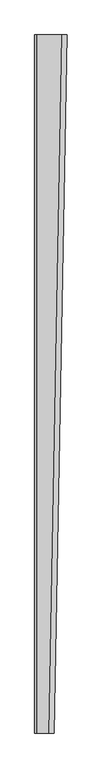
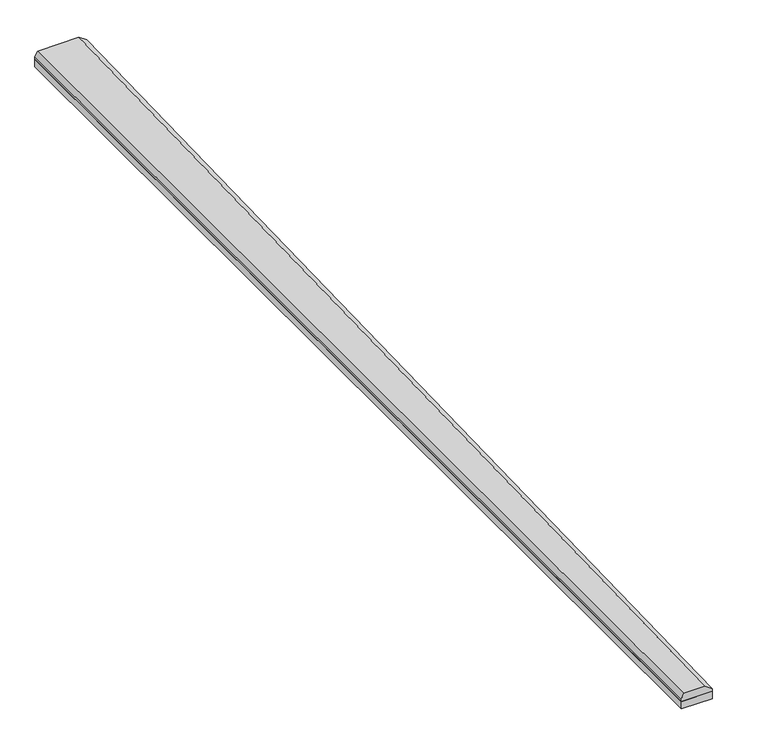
"""IFC4 building model written with IfcOpenShell, lengths in millimetres: proxy geometry, Spinneybeck_ARO Plank 3 : A - Top 5” x Bottom 3”."""

import ifcopenshell
import ifcopenshell.guid

model = None  # the IFC model being written
_history = None  # IfcOwnerHistory: only IFC2X3 demands one
_inside = {}  # id of a spatial element -> (the spatial element, [elements in it])
_under = {}  # id of a project, library or spatial element -> (it, [spatial elements below it])
_declared = {}  # id of a project -> (the project, [libraries it declares])
_typed = {}  # id of a type object -> (the type object, [elements of that type])
_made_of = {}  # id of a material, layer set ... -> (it, [elements and type objects made of it])


def new_model(schema):
    """Start an empty IFC model of exactly this schema.

    Asked for "IFC4X3", IfcOpenShell would pick the latest addendum, in which some entities
    have other attributes; the version numbers below select the first issue.
    IFC2X3 requires an IfcOwnerHistory on every rooted entity: one is made here for all.
    """
    global model, _history
    if schema == "IFC4X3":
        model = ifcopenshell.file(schema_version=(4, 3, 0, 0))
    else:
        model = ifcopenshell.file(schema=schema)
    _inside.clear()
    _under.clear()
    _declared.clear()
    _typed.clear()
    _made_of.clear()
    _history = None
    if model.schema == "IFC2X3":
        org = make("IfcOrganization", Name="unknown")
        user = make(
            "IfcPersonAndOrganization",
            ThePerson=make("IfcPerson", FamilyName="unknown"),
            TheOrganization=org,
        )
        app = make(
            "IfcApplication",
            ApplicationDeveloper=org,
            Version="unknown",
            ApplicationFullName="unknown",
            ApplicationIdentifier="unknown",
        )
        _history = make(
            "IfcOwnerHistory",
            OwningUser=user,
            OwningApplication=app,
            ChangeAction="ADDED",
            CreationDate=0,
        )
    return model


def make(cls, **values):
    """One entity of the class cls with the attributes given. An attribute that is None is left unset."""
    return model.create_entity(
        cls, **{name: value for name, value in values.items() if value is not None}
    )


def rooted(cls, **values):
    """An entity with a GlobalId (a new one), such as an element, a storey or a relation."""
    return make(cls, GlobalId=ifcopenshell.guid.new(), OwnerHistory=_history, **values)


def si_unit(unit_type, name, prefix=None):
    """IfcSIUnit, for example si_unit("LENGTHUNIT", "METRE", prefix="MILLI")."""
    return make("IfcSIUnit", UnitType=unit_type, Prefix=prefix, Name=name)


def assignment(units):
    """IfcUnitAssignment: the units of a project."""
    return None if units is None else make("IfcUnitAssignment", Units=units)


def point(xyz):
    """IfcCartesianPoint."""
    return None if xyz is None else make("IfcCartesianPoint", Coordinates=xyz)


def direction(xyz):
    """IfcDirection."""
    return None if xyz is None else make("IfcDirection", DirectionRatios=xyz)


def frame(location, z_axis=None, x_axis=None):
    """IfcAxis2Placement3D, a coordinate frame: its origin and axes. An axis left out is left unset."""
    return make(
        "IfcAxis2Placement3D",
        Location=point(location),
        Axis=direction(z_axis),
        RefDirection=direction(x_axis),
    )


def origin():
    """The frame at (0, 0, 0) with its axes left unset."""
    return frame((0.0, 0.0, 0.0))


def origin_with_axes():
    """The frame at (0, 0, 0) with the z axis (0, 0, 1) and the x axis (1, 0, 0) written out."""
    return frame((0.0, 0.0, 0.0), z_axis=(0.0, 0.0, 1.0), x_axis=(1.0, 0.0, 0.0))


def place(relative_to, where):
    """IfcLocalPlacement: puts the frame where relative to a parent placement (None: the world)."""
    return make(
        "IfcLocalPlacement", PlacementRelTo=relative_to, RelativePlacement=where
    )


def context(
    kind, dimensions, precision=None, world=None, true_north=None, identifier=None
):
    """IfcGeometricRepresentationContext, for example the 3D "Model" context."""
    return make(
        "IfcGeometricRepresentationContext",
        ContextIdentifier=identifier,
        ContextType=kind,
        CoordinateSpaceDimension=dimensions,
        Precision=precision,
        WorldCoordinateSystem=world,
        TrueNorth=true_north,
    )


def project(units=None, contexts=None):
    """IfcProject with its units and contexts."""
    return rooted(
        "IfcProject",
        Name="project",
        RepresentationContexts=contexts,
        UnitsInContext=assignment(units),
    )


def spatial(cls, under=None, at=None, **own):
    """A site, building, storey or space (cls), placed at a placement, below another one or the project."""
    s = rooted(cls, ObjectPlacement=at, **own)
    if under is not None:
        _under.setdefault(under.id(), (under, []))[1].append(s)
    return s


def polyline(points):
    """IfcPolyline through the points."""
    return make("IfcPolyline", Points=[point(p) for p in points])


def outline(outer, holes=None, kind="AREA"):
    """IfcArbitraryClosedProfileDef: a profile drawn as a closed curve; with holes, ...WithVoids."""
    if holes is None:
        return make("IfcArbitraryClosedProfileDef", ProfileType=kind, OuterCurve=outer)
    return make(
        "IfcArbitraryProfileDefWithVoids",
        ProfileType=kind,
        OuterCurve=outer,
        InnerCurves=holes,
    )


def extrude(swept, where, along, depth):
    """IfcExtrudedAreaSolid: the profile swept, set in the frame where, extruded along a direction by depth."""
    return make(
        "IfcExtrudedAreaSolid",
        SweptArea=swept,
        Position=where,
        ExtrudedDirection=direction(along),
        Depth=depth,
    )


def faces_of(points, faces, orient=None, outer=None):
    """IfcFace entities. A face is a list of loops; a loop is a list of indices into points, from 0.

    orient and outer hold one flag for each loop. By default every Orientation is true, the
    first loop of a face is its IfcFaceOuterBound and the others are IfcFaceBound.
    """
    made = []
    for i, loops in enumerate(faces):
        bounds = []
        for j, loop in enumerate(loops):
            is_outer = j == 0 if outer is None else outer[i][j]
            bounds.append(
                make(
                    "IfcFaceOuterBound" if is_outer else "IfcFaceBound",
                    Bound=make("IfcPolyLoop", Polygon=[points[k] for k in loop]),
                    Orientation=True if orient is None else orient[i][j],
                )
            )
        made.append(make("IfcFace", Bounds=bounds))
    return made


def faceted_brep(points, faces, orient=None, outer=None, voids=None):
    """IfcFacetedBrep: a solid bounded by flat faces; with voids (closed shells), ...WithVoids."""
    shared = [point(p) for p in points]
    hull = make("IfcClosedShell", CfsFaces=faces_of(shared, faces, orient, outer))
    if voids is None:
        return make("IfcFacetedBrep", Outer=hull)
    return make(
        "IfcFacetedBrepWithVoids",
        Outer=hull,
        Voids=[
            make(cls, CfsFaces=faces_of(shared, fs, o, b)) for cls, fs, o, b in voids
        ],
    )


def shape(context_of_items, identifier, shape_type, items):
    """IfcShapeRepresentation: the items that make up one representation, for example the "Body"."""
    return make(
        "IfcShapeRepresentation",
        ContextOfItems=context_of_items,
        RepresentationIdentifier=identifier,
        RepresentationType=shape_type,
        Items=items,
    )


def source(mapping_origin, context_of_items, identifier, shape_type, items):
    """IfcRepresentationMap: a shape defined once, which mapped items show again and again."""
    return make(
        "IfcRepresentationMap",
        MappingOrigin=mapping_origin,
        MappedRepresentation=shape(context_of_items, identifier, shape_type, items),
    )


def transform(
    local_origin,
    x_axis=None,
    y_axis=None,
    z_axis=None,
    scale=None,
    scale2=None,
    scale3=None,
    uniform=True,
):
    """IfcCartesianTransformationOperator3D, or its non-uniform kind. x_axis, y_axis, z_axis: its Axis1, 2, 3."""
    if uniform:
        return make(
            "IfcCartesianTransformationOperator3D",
            Axis1=direction(x_axis),
            Axis2=direction(y_axis),
            LocalOrigin=point(local_origin),
            Scale=scale,
            Axis3=direction(z_axis),
        )
    return make(
        "IfcCartesianTransformationOperator3DnonUniform",
        Axis1=direction(x_axis),
        Axis2=direction(y_axis),
        LocalOrigin=point(local_origin),
        Scale=scale,
        Axis3=direction(z_axis),
        Scale2=scale2,
        Scale3=scale3,
    )


def mapped(mapping_source, mapping_target):
    """IfcMappedItem: shows the shape of a source again, moved by a transform."""
    return make(
        "IfcMappedItem", MappingSource=mapping_source, MappingTarget=mapping_target
    )


def made_of(thing, what):
    """Note that an element or type object is made of a material, layer set ...; save() writes the relation."""
    if what is not None:
        _made_of.setdefault(what.id(), (what, []))[1].append(thing)
    return thing


def element(
    cls,
    number,
    at=None,
    inside=None,
    cuts=None,
    type_object=None,
    material=None,
    context=None,
    identifier="Body",
    shape_type=None,
    held_by="IfcProductDefinitionShape",
    body=None,
    shapes=None,
    **own,
):
    """One element of the class cls, such as IfcWall. Its Tag is "e" and its number.

    at: its placement. inside: the storey or other place that contains it. cuts: it is an
    opening in that element (IfcRelVoidsElement). A single representation is given by context,
    identifier, shape_type and body (its items); several are given by shapes. held_by: the class
    of the entity that holds the representations. save() writes the other relations.
    """
    e = rooted(cls, Tag="e%d" % number, ObjectPlacement=at, **own)
    if body is not None:
        shapes = [shape(context, identifier, shape_type, body)]
    if shapes is not None:
        e.Representation = make(held_by, Representations=shapes)
    if inside is not None:
        _inside.setdefault(inside.id(), (inside, []))[1].append(e)
    if cuts is not None:
        rooted(
            "IfcRelVoidsElement", RelatingBuildingElement=cuts, RelatedOpeningElement=e
        )
    if type_object is not None:
        _typed.setdefault(type_object.id(), (type_object, []))[1].append(e)
    return made_of(e, material)


def aggregate(whole, parts):
    """IfcRelAggregates: a whole, such as a stair, and the parts it consists of."""
    return rooted("IfcRelAggregates", RelatingObject=whole, RelatedObjects=parts)


def save(model, path):
    """Write the relations noted so far, then the file.

    IfcRelAggregates (storeys below a building ...), IfcRelContainedInSpatialStructure (elements
    in a storey), IfcRelDefinesByType, IfcRelAssociatesMaterial and IfcRelDeclares: one each for
    every whole, place, type object, material and project.
    """
    for whole, parts in _under.values():
        aggregate(whole, parts)
    for where, things in _inside.values():
        rooted(
            "IfcRelContainedInSpatialStructure",
            RelatedElements=things,
            RelatingStructure=where,
        )
    for kind, things in _typed.values():
        rooted("IfcRelDefinesByType", RelatedObjects=things, RelatingType=kind)
    for what, things in _made_of.values():
        rooted("IfcRelAssociatesMaterial", RelatedObjects=things, RelatingMaterial=what)
    for by, libraries in _declared.values():
        rooted("IfcRelDeclares", RelatingContext=by, RelatedDefinitions=libraries)
    model.write(path)


def specialty_equipment_cf8c985c(model_context):
    return source(origin(), model_context, "Body", "SolidModel", [
        extrude(outline(polyline([(-63.5, 2743.2), (63.5, 2743.2), (12.7, 0.0), (-63.5, 0.0), (-63.5, 2743.2)])), origin_with_axes(), (0.0, 0.0, 1.0), 19.05),
        faceted_brep([(-57.15, 0.0, 38.1), (-63.5, 0.0, 25.4), (-63.5, 0.0, 19.05), (12.7, 0.0, 19.05), (12.7, 0.0, 25.4), (-6.35, 0.0, 38.1), (-57.15, 2743.2, 38.1), (44.45, 2743.2, 38.1), (63.5, 2743.2, 25.4), (63.5, 2743.2, 19.05), (-63.5, 2743.2, 19.05), (-63.5, 2743.2, 25.4)], [[[0, 1, 2, 3, 4, 5]], [[6, 7, 8, 9, 10, 11]], [[6, 11, 1, 0]], [[11, 10, 2, 1]], [[10, 9, 3, 2]], [[9, 8, 4, 3]], [[8, 7, 5, 4]], [[7, 6, 0, 5]]]),
    ])


if __name__ == "__main__":
    model = new_model("IFC4")
    model_context = context("Model", 3, world=origin())
    ifc_project = project(units=[si_unit("LENGTHUNIT", "METRE", prefix="MILLI")], contexts=[model_context])
    site = spatial("IfcSite", under=ifc_project)
    building = spatial("IfcBuilding", under=site)
    placement = place(None, origin())
    specialty_equipment_shape = specialty_equipment_cf8c985c(model_context)
    element("IfcBuildingElementProxy", 1, Name="Spinneybeck_ARO Plank 3 : A - Top 5” x Bottom 3”", ObjectType="Spinneybeck_ARO Plank 3 : A - Top 5” x Bottom 3”", at=placement, inside=building, context=model_context, shape_type="MappedRepresentation", body=[
        mapped(specialty_equipment_shape, transform((0.0, 0.0, 0.0), x_axis=(1.0, 0.0, 0.0), y_axis=(0.0, 1.0, 0.0), z_axis=(0.0, 0.0, 1.0))),
    ])
    save(model, "model.ifc")
